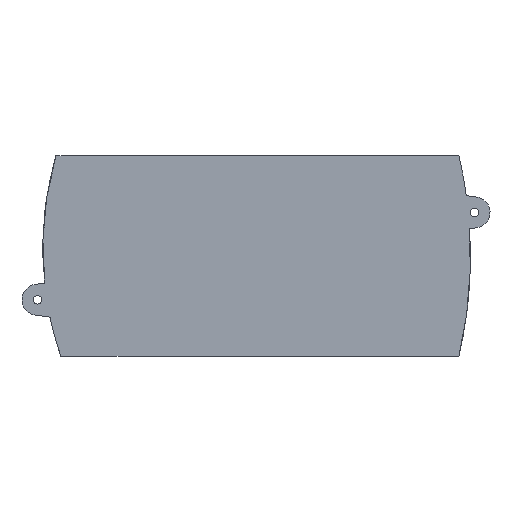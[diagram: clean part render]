
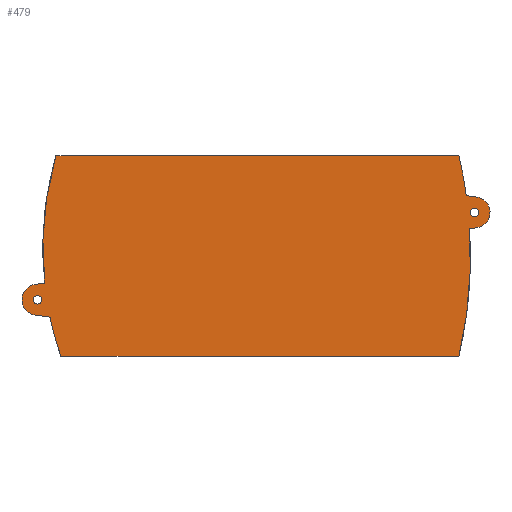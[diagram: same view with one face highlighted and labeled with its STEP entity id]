
A CAD part, top view. The second image highlights one B-rep face of the part: STEP entity #479.
In plain terms, the highlighted planar face has unit normal (0, 0, 1).
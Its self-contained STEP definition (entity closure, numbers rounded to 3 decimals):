
#479 = ADVANCED_FACE( '', ( #1036, #1037, #1038 ), #1039, .F. );
#1036 = FACE_OUTER_BOUND( '', #1642, .T. );
#1037 = FACE_BOUND( '', #1643, .T. );
#1038 = FACE_BOUND( '', #1644, .T. );
#1039 = PLANE( '', #1645 );
#1642 = EDGE_LOOP( '', ( #3020, #3021, #3022, #3023, #3024, #3025, #3026, #3027, #3028, #3029, #3030, #3031 ) );
#1643 = EDGE_LOOP( '', ( #3032 ) );
#1644 = EDGE_LOOP( '', ( #3033 ) );
#1645 = AXIS2_PLACEMENT_3D( '', #3034, #3035, #3036 );
#3020 = ORIENTED_EDGE( '', *, *, #3988, .F. );
#3021 = ORIENTED_EDGE( '', *, *, #4118, .F. );
#3022 = ORIENTED_EDGE( '', *, *, #3892, .F. );
#3023 = ORIENTED_EDGE( '', *, *, #4119, .F. );
#3024 = ORIENTED_EDGE( '', *, *, #3990, .F. );
#3025 = ORIENTED_EDGE( '', *, *, #3683, .F. );
#3026 = ORIENTED_EDGE( '', *, *, #4120, .F. );
#3027 = ORIENTED_EDGE( '', *, *, #4121, .F. );
#3028 = ORIENTED_EDGE( '', *, *, #4122, .F. );
#3029 = ORIENTED_EDGE( '', *, *, #4123, .F. );
#3030 = ORIENTED_EDGE( '', *, *, #4124, .F. );
#3031 = ORIENTED_EDGE( '', *, *, #4061, .F. );
#3032 = ORIENTED_EDGE( '', *, *, #4035, .T. );
#3033 = ORIENTED_EDGE( '', *, *, #4114, .T. );
#3034 = CARTESIAN_POINT( '', ( -2.583, 22.547, 0. ) );
#3035 = DIRECTION( '', ( 0., 0., -1. ) );
#3036 = DIRECTION( '', ( -1., 0., 0. ) );
#3683 = EDGE_CURVE( '', #4465, #4466, #4467, .T. );
#3892 = EDGE_CURVE( '', #4804, #4805, #4806, .T. );
#3988 = EDGE_CURVE( '', #4940, #4942, #4943, .T. );
#3990 = EDGE_CURVE( '', #4466, #4933, #4945, .T. );
#4035 = EDGE_CURVE( '', #5005, #5005, #5006, .T. );
#4061 = EDGE_CURVE( '', #4942, #5040, #5041, .T. );
#4114 = EDGE_CURVE( '', #5107, #5107, #5108, .T. );
#4118 = EDGE_CURVE( '', #4805, #4940, #5112, .T. );
#4119 = EDGE_CURVE( '', #4933, #4804, #5113, .T. );
#4120 = EDGE_CURVE( '', #5114, #4465, #5115, .T. );
#4121 = EDGE_CURVE( '', #5116, #5114, #5117, .T. );
#4122 = EDGE_CURVE( '', #5118, #5116, #5119, .T. );
#4123 = EDGE_CURVE( '', #5120, #5118, #5121, .T. );
#4124 = EDGE_CURVE( '', #5040, #5120, #5122, .T. );
#4465 = VERTEX_POINT( '', #5576 );
#4466 = VERTEX_POINT( '', #5577 );
#4467 = LINE( '', #5578, #5579 );
#4804 = VERTEX_POINT( '', #6075 );
#4805 = VERTEX_POINT( '', #6076 );
#4806 = CIRCLE( '', #6077, 8. );
#4933 = VERTEX_POINT( '', #6275 );
#4940 = VERTEX_POINT( '', #6285 );
#4942 = VERTEX_POINT( '', #6288 );
#4943 = CIRCLE( '', #6289, 170.74 );
#4945 = CIRCLE( '', #6292, 170.74 );
#5005 = VERTEX_POINT( '', #6387 );
#5006 = CIRCLE( '', #6388, 2.2 );
#5040 = VERTEX_POINT( '', #6438 );
#5041 = LINE( '', #6439, #6440 );
#5107 = VERTEX_POINT( '', #6544 );
#5108 = CIRCLE( '', #6545, 2.2 );
#5112 = LINE( '', #6549, #6550 );
#5113 = LINE( '', #6551, #6552 );
#5114 = VERTEX_POINT( '', #6553 );
#5115 = CIRCLE( '', #6554, 225.501 );
#5116 = VERTEX_POINT( '', #6555 );
#5117 = LINE( '', #6556, #6557 );
#5118 = VERTEX_POINT( '', #6558 );
#5119 = CIRCLE( '', #6559, 8. );
#5120 = VERTEX_POINT( '', #6560 );
#5121 = LINE( '', #6561, #6562 );
#5122 = CIRCLE( '', #6563, 225.501 );
#5576 = CARTESIAN_POINT( '', ( 216.929, -29.078, 0. ) );
#5577 = CARTESIAN_POINT( '', ( 12.039, -29.078, 0. ) );
#5578 = CARTESIAN_POINT( '', ( 216.929, -29.078, 0. ) );
#5579 = VECTOR( '', #6811, 1000. );
#6075 = CARTESIAN_POINT( '', ( -1.09, -7.925, 0. ) );
#6076 = CARTESIAN_POINT( '', ( -1.09, 7.925, 0. ) );
#6077 = AXIS2_PLACEMENT_3D( '', #6998, #6999, #7000 );
#6275 = CARTESIAN_POINT( '', ( 6.464, -8.964, 0. ) );
#6285 = CARTESIAN_POINT( '', ( 3.683, 8.581, 0. ) );
#6288 = CARTESIAN_POINT( '', ( 9.53, 74.172, 0. ) );
#6289 = AXIS2_PLACEMENT_3D( '', #7079, #7080, #7081 );
#6292 = AXIS2_PLACEMENT_3D( '', #7083, #7084, #7085 );
#6387 = CARTESIAN_POINT( '', ( 225., 47.158, 0. ) );
#6388 = AXIS2_PLACEMENT_3D( '', #7115, #7116, #7117 );
#6438 = CARTESIAN_POINT( '', ( 216.929, 74.172, 0. ) );
#6439 = CARTESIAN_POINT( '', ( 9.53, 74.172, 0. ) );
#6440 = VECTOR( '', #7134, 1000. );
#6544 = CARTESIAN_POINT( '', ( 0., 2.2, 0. ) );
#6545 = AXIS2_PLACEMENT_3D( '', #7173, #7174, #7175 );
#6549 = CARTESIAN_POINT( '', ( -1.09, 7.925, 0. ) );
#6550 = VECTOR( '', #7176, 1000. );
#6551 = CARTESIAN_POINT( '', ( 19., -10.689, 0. ) );
#6552 = VECTOR( '', #7177, 1000. );
#6553 = CARTESIAN_POINT( '', ( 222.483, 36.537, 0. ) );
#6554 = AXIS2_PLACEMENT_3D( '', #7178, #7179, #7180 );
#6555 = CARTESIAN_POINT( '', ( 226.09, 37.033, 0. ) );
#6556 = CARTESIAN_POINT( '', ( 226.09, 37.033, 0. ) );
#6557 = VECTOR( '', #7181, 1000. );
#6558 = CARTESIAN_POINT( '', ( 226.09, 52.884, 0. ) );
#6559 = AXIS2_PLACEMENT_3D( '', #7182, #7183, #7184 );
#6560 = CARTESIAN_POINT( '', ( 220.767, 53.616, 0. ) );
#6561 = CARTESIAN_POINT( '', ( 210., 55.096, 0. ) );
#6562 = VECTOR( '', #7185, 1000. );
#6563 = AXIS2_PLACEMENT_3D( '', #7186, #7187, #7188 );
#6811 = DIRECTION( '', ( -1., 0., 0. ) );
#6998 = CARTESIAN_POINT( '', ( 0.003, 0., 0. ) );
#6999 = DIRECTION( '', ( 0., 0., -1. ) );
#7000 = DIRECTION( '', ( 0., 1., 0. ) );
#7079 = CARTESIAN_POINT( '', ( 173.48, 26.5, 0. ) );
#7080 = DIRECTION( '', ( 0., 0., -1. ) );
#7081 = DIRECTION( '', ( 0., 1., 0. ) );
#7083 = CARTESIAN_POINT( '', ( 173.48, 26.5, 0. ) );
#7084 = DIRECTION( '', ( 0., 0., -1. ) );
#7085 = DIRECTION( '', ( 0., 1., 0. ) );
#7115 = CARTESIAN_POINT( '', ( 225., 44.958, 0. ) );
#7116 = DIRECTION( '', ( 0., 0., -1. ) );
#7117 = DIRECTION( '', ( 0., 1., 0. ) );
#7134 = DIRECTION( '', ( 1., 0., 0. ) );
#7173 = CARTESIAN_POINT( '', ( 0., 0., 0. ) );
#7174 = DIRECTION( '', ( 0., 0., -1. ) );
#7175 = DIRECTION( '', ( 0., 1., 0. ) );
#7176 = DIRECTION( '', ( 0.991, 0.136, 0. ) );
#7177 = DIRECTION( '', ( -0.991, 0.136, 0. ) );
#7178 = CARTESIAN_POINT( '', ( -2.583, 22.547, 0. ) );
#7179 = DIRECTION( '', ( 0., 0., -1. ) );
#7180 = DIRECTION( '', ( 0., 1., 0. ) );
#7181 = DIRECTION( '', ( -0.991, -0.136, 0. ) );
#7182 = CARTESIAN_POINT( '', ( 225.001, 44.958, 0. ) );
#7183 = DIRECTION( '', ( 0., 0., -1. ) );
#7184 = DIRECTION( '', ( 0., 1., 0. ) );
#7185 = DIRECTION( '', ( 0.991, -0.136, 0. ) );
#7186 = CARTESIAN_POINT( '', ( -2.583, 22.547, 0. ) );
#7187 = DIRECTION( '', ( 0., 0., -1. ) );
#7188 = DIRECTION( '', ( 0., 1., 0. ) );
